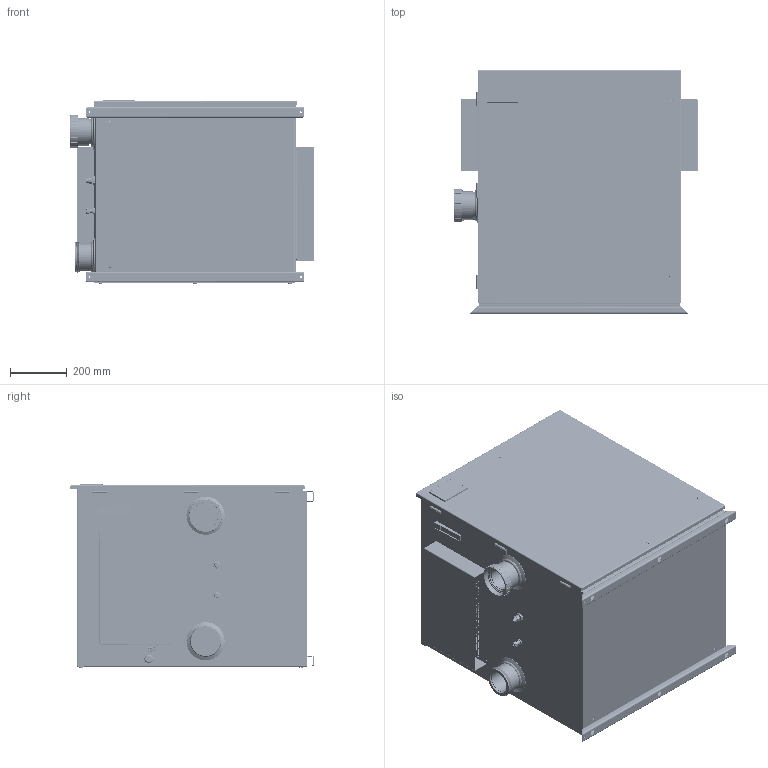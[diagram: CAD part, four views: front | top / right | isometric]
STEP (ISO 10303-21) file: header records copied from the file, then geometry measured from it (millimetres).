
FILE_DESCRIPTION (( 'STEP AP214' ), '1' );
FILE_NAME ('AOP-PRO-200 GENERATOR.STEP', '2019-02-28T13:40:27', ( '' ), ( '' ), 'SwSTEP 2.0', 'SolidWorks 2017', '' );
FILE_SCHEMA (( 'AUTOMOTIVE_DESIGN' ));
Length unit declared in the file: inch
Products named in the file (1): AOP-PRO-200 GENERATOR
Bounding box: 862.74 x 861.62 x 654.36 mm (x, y, z)
Surface area: 7126493.2 mm2 (no closed solid volume)
Topology: 0 solids, 493 shells, 1781 faces, 13101 edges, 11656 vertices
Faces by surface type: plane 832, cylinder 604, bspline 155, torus 89, cone 86, sphere 15
Entity records: 168205 total; most frequent: CARTESIAN_POINT 48087, DIRECTION 19745, ORIENTED_EDGE 15449, EDGE_CURVE 13093, VERTEX_POINT 11655, LINE 6875, VECTOR 6875, AXIS2_PLACEMENT_3D 6435
